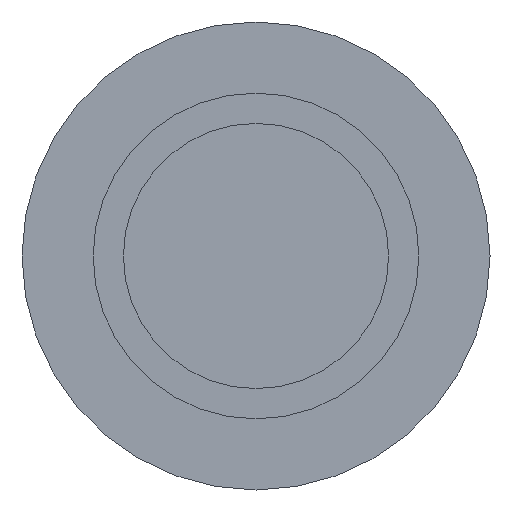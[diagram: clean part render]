
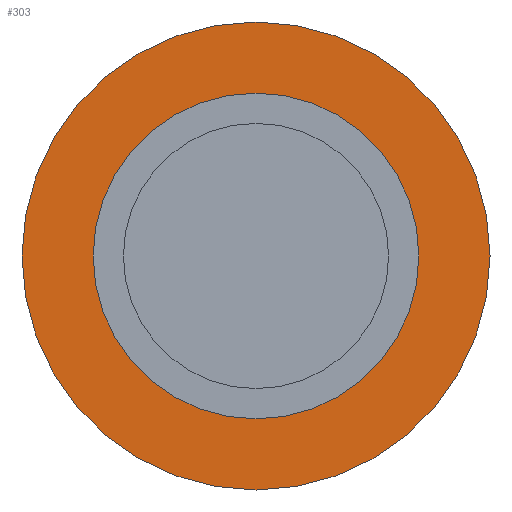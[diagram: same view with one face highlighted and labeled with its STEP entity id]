
A CAD part, front view. The second image highlights one B-rep face of the part: STEP entity #303.
In plain terms, the highlighted planar face has unit normal (0, -1, 0).
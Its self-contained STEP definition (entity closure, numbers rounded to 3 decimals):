
#6 = CIRCLE ( 'NONE', #39, 26.1 ) ;
#18 = DIRECTION ( 'NONE',  ( 0., 1., 0. ) ) ;
#20 = EDGE_LOOP ( 'NONE', ( #311, #146 ) ) ;
#35 = VERTEX_POINT ( 'NONE', #242 ) ;
#39 = AXIS2_PLACEMENT_3D ( 'NONE', #219, #348, #288 ) ;
#46 = DIRECTION ( 'NONE',  ( 0., 0., 1. ) ) ;
#55 = CIRCLE ( 'NONE', #90, 37.5 ) ;
#67 = CARTESIAN_POINT ( 'NONE',  ( 0., 0., 0. ) ) ;
#74 = CARTESIAN_POINT ( 'NONE',  ( 0., 0., 0. ) ) ;
#82 = FACE_BOUND ( 'NONE', #20, .T. ) ;
#90 = AXIS2_PLACEMENT_3D ( 'NONE', #67, #192, #127 ) ;
#97 = PLANE ( 'NONE',  #250 ) ;
#126 = DIRECTION ( 'NONE',  ( 0., -1., 0. ) ) ;
#127 = DIRECTION ( 'NONE',  ( 0., 0., 1. ) ) ;
#128 = CARTESIAN_POINT ( 'NONE',  ( 0., 0., 26.1 ) ) ;
#131 = VERTEX_POINT ( 'NONE', #183 ) ;
#146 = ORIENTED_EDGE ( 'NONE', *, *, #381, .T. ) ;
#148 = ORIENTED_EDGE ( 'NONE', *, *, #280, .F. ) ;
#160 = EDGE_CURVE ( 'NONE', #35, #131, #358, .T. ) ;
#168 = CIRCLE ( 'NONE', #277, 26.1 ) ;
#183 = CARTESIAN_POINT ( 'NONE',  ( 0., 0., -37.5 ) ) ;
#192 = DIRECTION ( 'NONE',  ( 0., 1., 0. ) ) ;
#197 = EDGE_CURVE ( 'NONE', #304, #324, #6, .T. ) ;
#219 = CARTESIAN_POINT ( 'NONE',  ( 0., 0., 0. ) ) ;
#242 = CARTESIAN_POINT ( 'NONE',  ( 0., 0., 37.5 ) ) ;
#250 = AXIS2_PLACEMENT_3D ( 'NONE', #293, #126, #322 ) ;
#252 = CARTESIAN_POINT ( 'NONE',  ( 0., 0., 0. ) ) ;
#264 = CARTESIAN_POINT ( 'NONE',  ( 0., 0., -26.1 ) ) ;
#270 = AXIS2_PLACEMENT_3D ( 'NONE', #252, #285, #290 ) ;
#277 = AXIS2_PLACEMENT_3D ( 'NONE', #74, #18, #46 ) ;
#280 = EDGE_CURVE ( 'NONE', #131, #35, #55, .T. ) ;
#285 = DIRECTION ( 'NONE',  ( 0., 1., 0. ) ) ;
#288 = DIRECTION ( 'NONE',  ( 0., 0., 1. ) ) ;
#290 = DIRECTION ( 'NONE',  ( 0., 0., 1. ) ) ;
#293 = CARTESIAN_POINT ( 'NONE',  ( -26.1, 0., 0. ) ) ;
#303 = ADVANCED_FACE ( 'NONE', ( #82, #319 ), #97, .T. ) ;
#304 = VERTEX_POINT ( 'NONE', #128 ) ;
#311 = ORIENTED_EDGE ( 'NONE', *, *, #197, .T. ) ;
#312 = EDGE_LOOP ( 'NONE', ( #385, #148 ) ) ;
#319 = FACE_OUTER_BOUND ( 'NONE', #312, .T. ) ;
#322 = DIRECTION ( 'NONE',  ( 0., 0., -1. ) ) ;
#324 = VERTEX_POINT ( 'NONE', #264 ) ;
#348 = DIRECTION ( 'NONE',  ( 0., 1., 0. ) ) ;
#358 = CIRCLE ( 'NONE', #270, 37.5 ) ;
#381 = EDGE_CURVE ( 'NONE', #324, #304, #168, .T. ) ;
#385 = ORIENTED_EDGE ( 'NONE', *, *, #160, .F. ) ;
